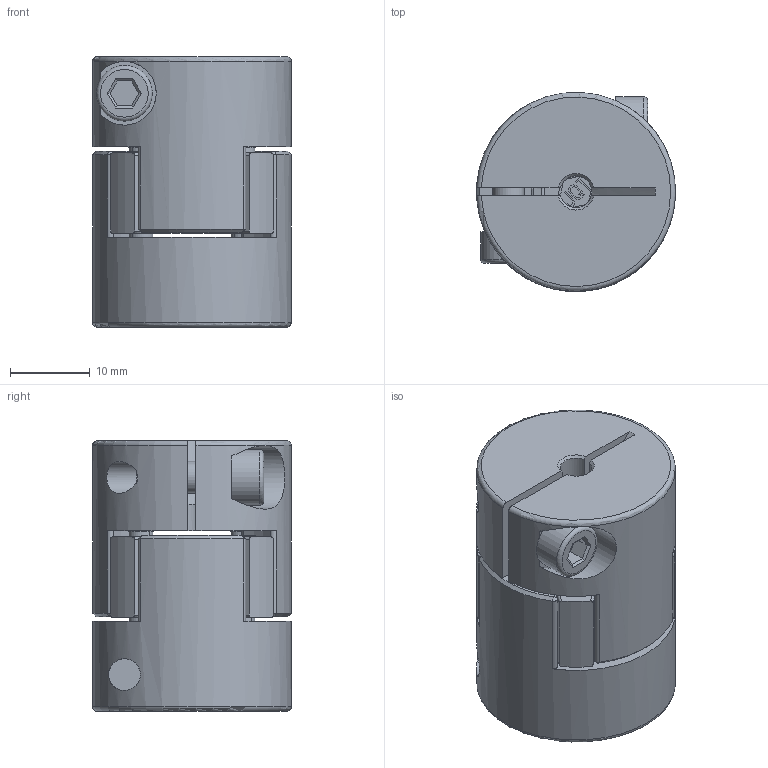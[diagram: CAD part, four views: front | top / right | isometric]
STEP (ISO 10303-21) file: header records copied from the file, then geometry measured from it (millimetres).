
FILE_DESCRIPTION(/* description */ (''),/* implementation_level */ '2;1');
FILE_NAME(/* name */ 'JQT meihua.stp',/* time_stamp */ '2025-02-06T13:28:52+08:00',/* author */ (''),/* organization */ (''),/* preprocessor_version */ 'ST-DEVELOPER v16',/* originating_system */ 'SIEMENS PLM Software NX 10.0',/* authorisation */ '');
FILE_SCHEMA (('AUTOMOTIVE_DESIGN { 1 0 10303 214 3 1 1 1 }'));
Length unit declared in the file: millimetre
Products named in the file (1): Admi0D407BA88ou3
Bounding box: 24.99 x 24.99 x 34 mm (x, y, z)
Volume: 14835.9 mm3; surface area: 8346.8 mm2
Topology: 5 solids, 5 shells, 442 faces, 1166 edges, 754 vertices
Faces by surface type: plane 294, cylinder 70, cone 42, torus 36
Full cylindrical faces by diameter (mm): 4 x6, 7 x2
Entity records: 14218 total; most frequent: CARTESIAN_POINT 3185, ORIENTED_EDGE 2300, DIRECTION 2220, EDGE_CURVE 1150, LINE 860, VECTOR 860, VERTEX_POINT 748, AXIS2_PLACEMENT_3D 680
